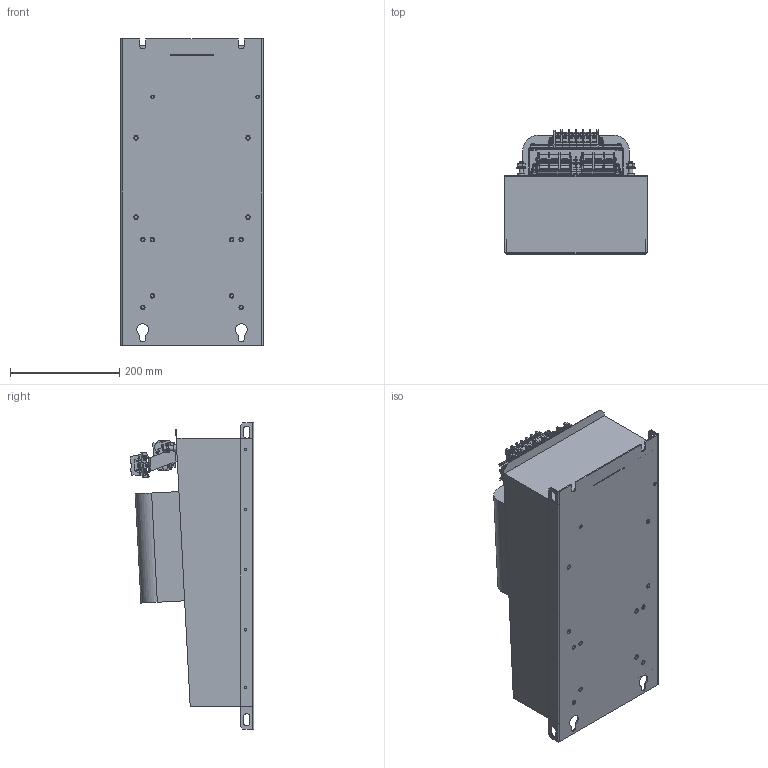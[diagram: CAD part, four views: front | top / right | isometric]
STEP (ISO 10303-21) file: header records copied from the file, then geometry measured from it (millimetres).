
FILE_DESCRIPTION((''),'2;1');
FILE_NAME('C:\SapWorkDir\Inventor\P01\D\EcosineEVO-DnL-E0XXJXX.stp','2016-08-29T11:09:12',('erika.jenzer'),(''),'Autodesk Inventor 2013','Autodesk Inventor 2013','');
FILE_SCHEMA(('AUTOMOTIVE_DESIGN { 1 0 10303 214 1 1 1 1 }'));
Length unit declared in the file: millimetre
Products named in the file (24): 155572_3D MODEL GLORIA FRAME D; 155598_TERMINAL SUPPORT D WITH INSERTS; 155596_TERMINAL SUPPORT D; 112624_INSERT BOLT FH M5X12; 155577_HOUSING D WITH INSERTS; 112610_INSERT NUT SS M8; 155573_BASE PLATE D WITH INSERTS; 155574_BASE PLATE D; 112655_INSERT BOLT FH M6X15; 122854_EARTH SCREW M 8 X 30 MM; DIN EN 1661 M5; 155599_TRAP DISCONNECT TERMINAL MODULE D; 157068_DIN RAIL TH35-7.5 D-J; 153991_DKB30; 160160_SS9A; 156473_END COVER DKB10E; 155580_TERMINAL MODULE D; 157084_DIN RAIL TH35-7.5 D WITH INSERTS; 155581_DIN RAIL TH35-7.5 D; 153988_DKB10; 153992_DKB 60; 156474_END COVER DKB60E-A; 160161_SS9B; 163197_GLORIA D STP DUMMY
Assembly tree (57 placements, depth 4):
  155572_3D MODEL GLORIA FRAME D
    155598_TERMINAL SUPPORT D WITH INSERTS
      155596_TERMINAL SUPPORT D
      112624_INSERT BOLT FH M5X12  x2
    155577_HOUSING D WITH INSERTS
      112610_INSERT NUT SS M8  x2
    155573_BASE PLATE D WITH INSERTS
      155574_BASE PLATE D
      112655_INSERT BOLT FH M6X15  x12
      112624_INSERT BOLT FH M5X12  x2
    122854_EARTH SCREW M 8 X 30 MM  x2
    DIN EN 1661 M5  x2
    155599_TRAP DISCONNECT TERMINAL MODULE D
      157068_DIN RAIL TH35-7.5 D-J
      153991_DKB30  x6
      160160_SS9A  x2
      156473_END COVER DKB10E
    155580_TERMINAL MODULE D
      157084_DIN RAIL TH35-7.5 D WITH INSERTS
        155581_DIN RAIL TH35-7.5 D
        112624_INSERT BOLT FH M5X12  x2
      153988_DKB10  x2
      153992_DKB 60  x6
      156473_END COVER DKB10E
      156474_END COVER DKB60E-A  x2
      160161_SS9B  x2
    163197_GLORIA D STP DUMMY
Bounding box: 260 x 225.98 x 560 mm (x, y, z)
Volume: 19861062 mm3; surface area: 1045096.2 mm2
Topology: 53 solids, 53 shells, 4047 faces, 10935 edges, 7205 vertices
Faces by surface type: plane 2677, cylinder 966, cone 144, torus 90, bspline 70, sphere 60, revolution 40
Full cylindrical faces by diameter (mm): 1.5 x16, 2.9 x4, 3.2 x4, 3.7 x4, 3.9 x12, 4 x16, 4.134 x2, 4.2 x14, 4.3 x10, 5 x26, 5.5 x4, 6 x28, 6.206 x6, 6.5 x8, 6.647 x2, 7 x16, 7.2 x12, 7.3 x4, 7.323 x2, 7.475 x12, 8 x6, 8.2 x12, 8.4 x2, 9 x2, 10 x12, 11.286 x2, 11.4 x2, 12.65 x2, 16 x2
Entity records: 47038 total; most frequent: CARTESIAN_POINT 10220, DIRECTION 7431, ORIENTED_EDGE 7388, EDGE_CURVE 3694, VECTOR 2529, LINE 2529, VERTEX_POINT 2509, AXIS2_PLACEMENT_3D 2445
